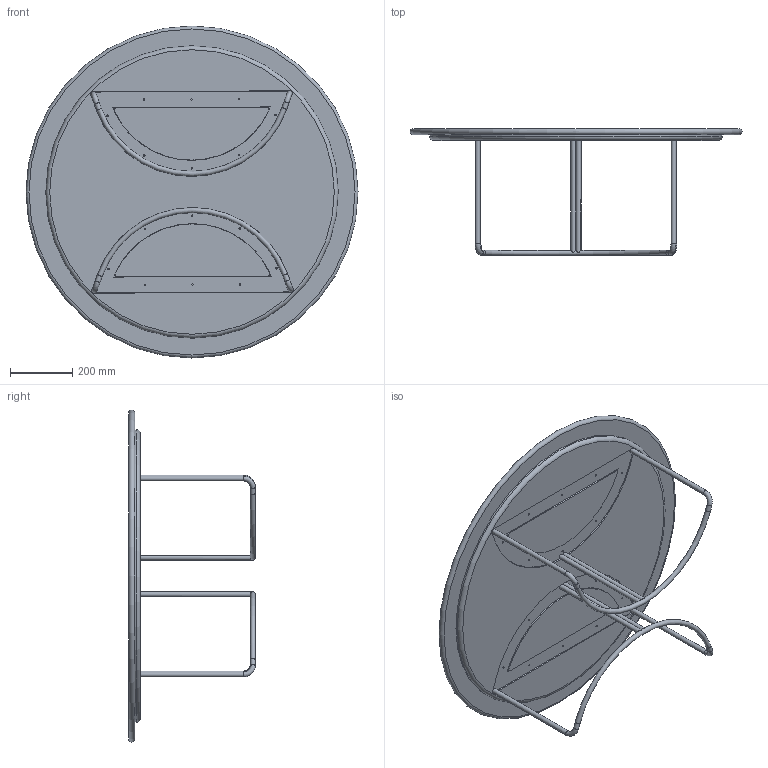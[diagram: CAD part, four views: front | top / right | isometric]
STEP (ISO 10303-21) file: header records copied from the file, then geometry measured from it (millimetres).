
FILE_DESCRIPTION(/* description */ (''),/* implementation_level */ '2;1');
FILE_NAME(/* name */ '1067.stp',/* time_stamp */ '2025-09-26T15:30:34-04:00',/* author */ ('abieber'),/* organization */ (''),/* preprocessor_version */ 'ST-DEVELOPER v20',/* originating_system */ 'Autodesk Inventor 2025',/* authorisation */ '');
FILE_SCHEMA (('AUTOMOTIVE_DESIGN { 1 0 10303 214 3 1 1 }'));
Length unit declared in the file: inch
Products named in the file (9): 1067; 1067-TOP - PROTOTYPE; 1067-SUBTOP - PROTOTYPE; BA1067; BA1067-003 - BASE - LEG ASSEMBLY; BA1067-005 - BASE - BOTTOM HOOP; BA1066-004 ; BA1066-007; BA1067-001
Assembly tree (11 placements, depth 4):
  1067
    1067-TOP - PROTOTYPE
    1067-SUBTOP - PROTOTYPE
    BA1067  x2
      BA1067-003 - BASE - LEG ASSEMBLY
        BA1067-005 - BASE - BOTTOM HOOP
        BA1066-004   x2
      BA1066-007
      BA1067-001
Bounding box: 1066.8 x 406.41 x 1066.8 mm (x, y, z)
Volume: 29882729.8 mm3; surface area: 3810038.1 mm2
Topology: 14 solids, 14 shells, 105 faces, 227 edges, 154 vertices
Faces by surface type: cylinder 53, plane 44, torus 8
Full cylindrical faces by diameter (mm): 4.762 x16, 15.875 x12, 939.8 x1
Entity records: 2102 total; most frequent: DIRECTION 364, CARTESIAN_POINT 304, ORIENTED_EDGE 268, AXIS2_PLACEMENT_3D 150, EDGE_CURVE 134, VERTEX_POINT 90, EDGE_LOOP 82, CIRCLE 67
